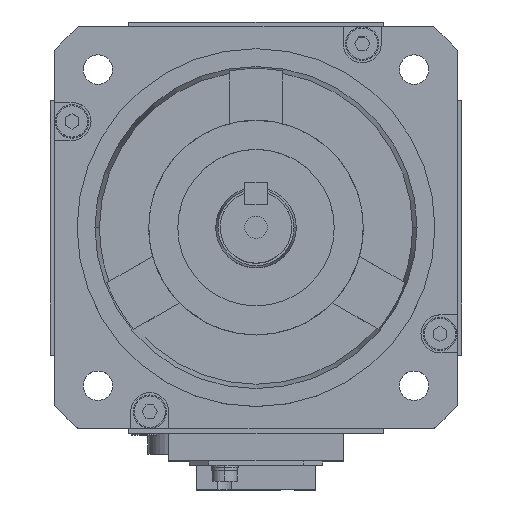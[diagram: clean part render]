
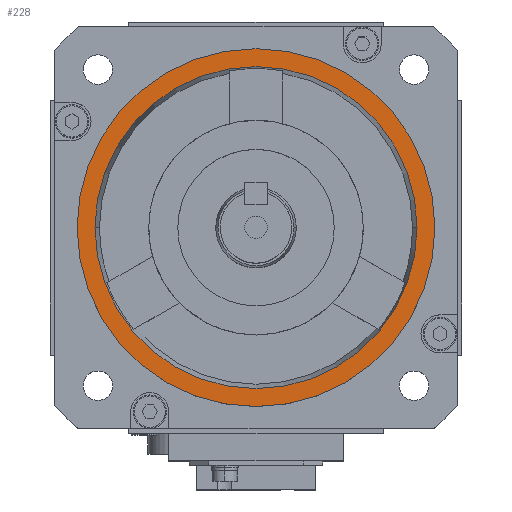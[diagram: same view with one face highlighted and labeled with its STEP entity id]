
A CAD part, top view. The second image highlights one B-rep face of the part: STEP entity #228.
In plain terms, the highlighted planar face has unit normal (0, 0, 1).
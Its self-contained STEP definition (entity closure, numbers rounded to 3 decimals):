
#228 = ADVANCED_FACE ( 'NONE', ( #5779, #5778 ), #5777, .T. ) ;
#957 = VERTEX_POINT ( 'NONE', #7257 ) ;
#964 = EDGE_CURVE ( 'NONE', #965, #957, #7248, .T. ) ;
#965 = VERTEX_POINT ( 'NONE', #7243 ) ;
#4144 = EDGE_CURVE ( 'NONE', #4156, #4150, #13766, .T. ) ;
#4150 = VERTEX_POINT ( 'NONE', #13754 ) ;
#4156 = VERTEX_POINT ( 'NONE', #13746 ) ;
#5777 = PLANE ( 'NONE',  #5848 ) ;
#5778 = FACE_BOUND ( 'NONE', #20174, .T. ) ;
#5779 = FACE_OUTER_BOUND ( 'NONE', #20240, .T. ) ;
#5845 = DIRECTION ( 'NONE',  ( 1., 0., 0. ) ) ;
#5846 = DIRECTION ( 'NONE',  ( 0., 0., 1. ) ) ;
#5847 = CARTESIAN_POINT ( 'NONE',  ( 0., 0., 5. ) ) ;
#5848 = AXIS2_PLACEMENT_3D ( 'NONE', #5847, #5846, #5845 ) ;
#7243 = CARTESIAN_POINT ( 'NONE',  ( 40., 0., 5. ) ) ;
#7244 = DIRECTION ( 'NONE',  ( 1., 0., 0. ) ) ;
#7245 = DIRECTION ( 'NONE',  ( 0., 0., 1. ) ) ;
#7246 = CARTESIAN_POINT ( 'NONE',  ( 0., 0., 5. ) ) ;
#7247 = AXIS2_PLACEMENT_3D ( 'NONE', #7246, #7245, #7244 ) ;
#7248 = CIRCLE ( 'NONE', #7247, 40. ) ;
#7257 = CARTESIAN_POINT ( 'NONE',  ( -40., 0., 5. ) ) ;
#10228 = EDGE_CURVE ( 'NONE', #4150, #4156, #17355, .T. ) ;
#13746 = CARTESIAN_POINT ( 'NONE',  ( -36., 0., 5. ) ) ;
#13754 = CARTESIAN_POINT ( 'NONE',  ( 36., 0., 5. ) ) ;
#13761 = DIRECTION ( 'NONE',  ( 1., 0., 0. ) ) ;
#13762 = DIRECTION ( 'NONE',  ( 0., 0., 1. ) ) ;
#13763 = CARTESIAN_POINT ( 'NONE',  ( 0., 0., 5. ) ) ;
#13765 = AXIS2_PLACEMENT_3D ( 'NONE', #13763, #13762, #13761 ) ;
#13766 = CIRCLE ( 'NONE', #13765, 36. ) ;
#17351 = DIRECTION ( 'NONE',  ( 1., 0., 0. ) ) ;
#17352 = DIRECTION ( 'NONE',  ( 0., 0., 1. ) ) ;
#17353 = CARTESIAN_POINT ( 'NONE',  ( 0., 0., 5. ) ) ;
#17354 = AXIS2_PLACEMENT_3D ( 'NONE', #17353, #17352, #17351 ) ;
#17355 = CIRCLE ( 'NONE', #17354, 36. ) ;
#19193 = DIRECTION ( 'NONE',  ( 1., 0., 0. ) ) ;
#19194 = DIRECTION ( 'NONE',  ( 0., 0., 1. ) ) ;
#19195 = CARTESIAN_POINT ( 'NONE',  ( 0., 0., 5. ) ) ;
#19196 = AXIS2_PLACEMENT_3D ( 'NONE', #19195, #19194, #19193 ) ;
#19197 = CIRCLE ( 'NONE', #19196, 40. ) ;
#20107 = ORIENTED_EDGE ( 'NONE', *, *, #4144, .F. ) ;
#20173 = ORIENTED_EDGE ( 'NONE', *, *, #10228, .F. ) ;
#20174 = EDGE_LOOP ( 'NONE', ( #20173, #20107 ) ) ;
#20186 = ORIENTED_EDGE ( 'NONE', *, *, #964, .T. ) ;
#20208 = ORIENTED_EDGE ( 'NONE', *, *, #20339, .T. ) ;
#20240 = EDGE_LOOP ( 'NONE', ( #20208, #20186 ) ) ;
#20339 = EDGE_CURVE ( 'NONE', #957, #965, #19197, .T. ) ;
